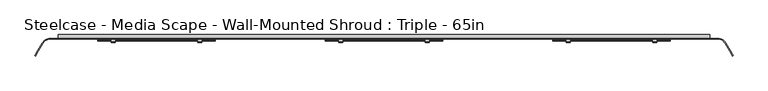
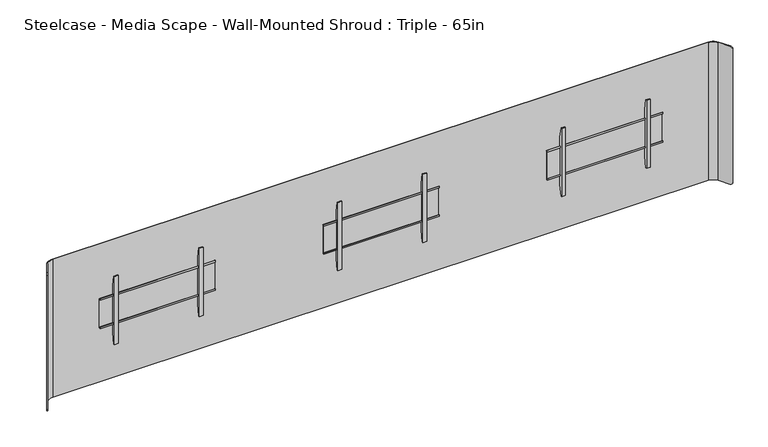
"""IFC4 building model written with IfcOpenShell, lengths in millimetres: furniture geometry, Steelcase - Media Scape - Wall-Mounted Shroud : Triple - 65in."""

from ifc_helpers import new_model, si_unit, frame, origin, place, context, project, spatial, polyline, circle_curve, outline, extrude, source, transform, mapped, element, save
from ifc_brep_helpers import plane_surface, cylinder_surface, revolved_surface, advanced_brep


def steelcase_media_scape_wall_mounted_shroud_triple_65in_d4411b09(model_context):
    return source(origin(), model_context, "Body", "SolidModel", [
        extrude(outline(polyline([(-42.4942785, 1453.5504726), (-42.4942785, 1465.5645649), (-39.8272175, 1465.5645649), (-39.8272175, 1456.217461), (-29.9720009, 1456.217461), (-29.9720009, 1241.8922438), (-42.3164551, 1241.8922438), (-42.3164551, 1252.8142515), (-39.649394, 1252.8142515), (-39.649394, 1244.557052), (-32.6531824, 1244.557052), (-32.6531824, 1453.5504726), (-42.4942785, 1453.5504726)])), frame((1171.575, 0.0, 0.0), z_axis=(1.0, 0.0, 0.0), x_axis=(0.0, 1.0, 0.0)), (0.0, 0.0, 1.0), 812.8),
        extrude(outline(polyline([(-32.6531824, 1524.4971148), (-32.6531824, 1172.6825607), (-46.5049349, 1095.0546949), (-53.3399828, 1095.0546949), (-53.3399828, 1603.0547192), (-46.5050076, 1603.0547192), (-32.6531824, 1524.4971148)])), frame((1265.176426, 0.0, 0.0), z_axis=(1.0, 0.0, 0.0), x_axis=(0.0, 1.0, 0.0)), (0.0, 0.0, 1.0), 26.1592872),
        extrude(outline(polyline([(-32.6531824, 1524.4971148), (-32.6531824, 1172.6825607), (-46.5049349, 1095.0546949), (-53.3399828, 1095.0546949), (-53.3399828, 1603.0547192), (-46.5050076, 1603.0547192), (-32.6531824, 1524.4971148)])), frame((1864.6142868, 0.0, 0.0), z_axis=(1.0, 0.0, 0.0), x_axis=(0.0, 1.0, 0.0)), (0.0, 0.0, 1.0), 26.1592872),
        extrude(outline(polyline([(-42.4942785, 1453.5504726), (-42.4942785, 1465.5645649), (-39.8272175, 1465.5645649), (-39.8272175, 1456.217461), (-29.9720009, 1456.217461), (-29.9720009, 1241.8922438), (-42.3164551, 1241.8922438), (-42.3164551, 1252.8142515), (-39.649394, 1252.8142515), (-39.649394, 1244.557052), (-32.6531824, 1244.557052), (-32.6531824, 1453.5504726), (-42.4942785, 1453.5504726)])), frame((-1984.375, 0.0, 0.0), z_axis=(1.0, 0.0, 0.0), x_axis=(0.0, 1.0, 0.0)), (0.0, 0.0, 1.0), 812.8),
        extrude(outline(polyline([(-32.6531824, 1524.4971148), (-32.6531824, 1172.6825607), (-46.5049349, 1095.0546949), (-53.3399828, 1095.0546949), (-53.3399828, 1603.0547192), (-46.5050076, 1603.0547192), (-32.6531824, 1524.4971148)])), frame((-1291.3357132, 0.0, 0.0), z_axis=(1.0, 0.0, 0.0), x_axis=(0.0, 1.0, 0.0)), (0.0, 0.0, 1.0), 26.1592872),
        extrude(outline(polyline([(-32.6531824, 1524.4971148), (-32.6531824, 1172.6825607), (-46.5049349, 1095.0546949), (-53.3399828, 1095.0546949), (-53.3399828, 1603.0547192), (-46.5050076, 1603.0547192), (-32.6531824, 1524.4971148)])), frame((-1890.773574, 0.0, 0.0), z_axis=(1.0, 0.0, 0.0), x_axis=(0.0, 1.0, 0.0)), (0.0, 0.0, 1.0), 26.1592872),
        extrude(outline(polyline([(-42.4942785, 1453.5504726), (-42.4942785, 1465.5645649), (-39.8272175, 1465.5645649), (-39.8272175, 1456.217461), (-29.9720009, 1456.217461), (-29.9720009, 1241.8922438), (-42.3164551, 1241.8922438), (-42.3164551, 1252.8142515), (-39.649394, 1252.8142515), (-39.649394, 1244.557052), (-32.6531824, 1244.557052), (-32.6531824, 1453.5504726), (-42.4942785, 1453.5504726)])), frame((-406.4, 0.0, 0.0), z_axis=(1.0, 0.0, 0.0), x_axis=(0.0, 1.0, 0.0)), (0.0, 0.0, 1.0), 812.8),
        extrude(outline(polyline([(-32.6531824, 1524.4971148), (-32.6531824, 1172.6825607), (-46.5049349, 1095.0546949), (-53.3399828, 1095.0546949), (-53.3399828, 1603.0547192), (-46.5050076, 1603.0547192), (-32.6531824, 1524.4971148)])), frame((286.6392868, 0.0, 0.0), z_axis=(1.0, 0.0, 0.0), x_axis=(0.0, 1.0, 0.0)), (0.0, 0.0, 1.0), 26.1592872),
        extrude(outline(polyline([(-32.6531824, 1524.4971148), (-32.6531824, 1172.6825607), (-46.5049349, 1095.0546949), (-53.3399828, 1095.0546949), (-53.3399828, 1603.0547192), (-46.5050076, 1603.0547192), (-32.6531824, 1524.4971148)])), frame((-312.798574, 0.0, 0.0), z_axis=(1.0, 0.0, 0.0), x_axis=(0.0, 1.0, 0.0)), (0.0, 0.0, 1.0), 26.1592872),
        advanced_brep(
        [(-2367.4086135, -61.722, 1864.614), (-2312.416002, -29.9720009, 1864.614), (2312.416, -29.9720009, 1864.614), (2367.4086135, -61.722, 1864.614), (2407.529586, -131.2135628, 1864.614), (2411.4890541, -128.9275628, 1864.614), (2371.3680817, -59.436, 1864.614), (2312.416002, -25.4, 1864.614), (-2312.416, -25.4, 1864.614), (-2371.3680817, -59.436, 1864.614), (-2411.4921659, -128.9329524, 1864.614), (-2407.5326977, -131.2189524, 1864.614), (-2371.3680817, -59.436, 835.914), (-2312.416002, -25.4, 835.914), (2312.416, -25.4, 835.914), (2371.3680817, -59.436, 835.914), (2411.5406629, -129.0169518, 835.914), (2407.5811948, -131.3029518, 835.914), (2367.4086135, -61.722, 835.914), (2312.416002, -29.9720009, 835.914), (-2312.416, -29.9720009, 835.914), (-2367.4086135, -61.722, 835.914), (-2407.5954014, -131.3275584, 835.914), (-2411.5548695, -129.0415584, 835.914), (-2421.0590632, -145.5033047, 849.5242766), (-2421.0590632, -145.5033047, 1850.6227735), (-2417.0995951, -147.7893047, 1850.6227735), (-2417.0995951, -147.7893047, 849.5242766), (2417.0770866, -147.7503189, 849.4756893), (2417.0770866, -147.7503189, 1850.7433849), (2421.0365547, -145.4643189, 1850.7433849), (2421.0365547, -145.4643189, 849.4756893)],
        [
            (0, 1, circle_curve(frame((-2312.416002, -93.4719991, 1864.614), z_axis=(0.0, 0.0, -1.0), x_axis=(0.0, 1.0, 0.0)), 63.4999981)),
            (1, 2),
            (2, 3, circle_curve(frame((2312.416002, -93.4719991, 1864.614), z_axis=(0.0, 0.0, -1.0), x_axis=(0.0, 1.0, 0.0)), 63.4999981)),
            (3, 4),
            (4, 5),
            (5, 6),
            (6, 7, circle_curve(frame((2312.4160004, -93.472, 1864.614), z_axis=(0.0, 0.0, 1.0), x_axis=(0.0, 1.0, 0.0)), 68.072)),
            (7, 8),
            (8, 9, circle_curve(frame((-2312.4160004, -93.472, 1864.614), z_axis=(0.0, 0.0, 1.0), x_axis=(0.0, 1.0, 0.0)), 68.072)),
            (9, 10),
            (10, 11),
            (11, 0),
            (12, 13, circle_curve(frame((-2312.4160004, -93.472, 835.914), z_axis=(0.0, 0.0, -1.0), x_axis=(0.0, 1.0, 0.0)), 68.072)),
            (13, 14),
            (14, 15, circle_curve(frame((2312.4160004, -93.472, 835.914), z_axis=(0.0, 0.0, -1.0), x_axis=(0.0, 1.0, 0.0)), 68.072)),
            (15, 16),
            (16, 17),
            (17, 18),
            (18, 19, circle_curve(frame((2312.416002, -93.4719991, 835.914), z_axis=(0.0, 0.0, 1.0), x_axis=(0.0, 1.0, 0.0)), 63.4999981)),
            (19, 20),
            (20, 21, circle_curve(frame((-2312.416002, -93.4719991, 835.914), z_axis=(0.0, 0.0, 1.0), x_axis=(0.0, 1.0, 0.0)), 63.4999981)),
            (21, 22),
            (22, 23),
            (23, 12),
            (0, 21),
            (20, 1),
            (8, 13),
            (12, 9),
            (23, 24, circle_curve(frame((-2411.5548695, -129.0415584, 855.9928872), z_axis=(-0.8660254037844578, 0.4999999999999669, 0.0), x_axis=(-0.4999999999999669, -0.8660254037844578, 0.0)), 20.0788872)),
            (24, 25),
            (25, 10, circle_curve(frame((-2411.4921659, -128.9329524, 1844.5351128), z_axis=(-0.866025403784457, 0.49999999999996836, 0.0), x_axis=(-0.49999999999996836, -0.866025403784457, 0.0)), 20.0788872)),
            (26, 25),
            (24, 27),
            (27, 26),
            (11, 26, circle_curve(frame((-2407.5326977, -131.2189524, 1844.5351128), z_axis=(0.866025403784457, -0.49999999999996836, 0.0), x_axis=(-0.49999999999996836, -0.866025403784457, 0.0)), 20.0788872)),
            (27, 22, circle_curve(frame((-2407.5954014, -131.3275584, 855.9928872), z_axis=(0.8660254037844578, -0.4999999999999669, 0.0), x_axis=(-0.4999999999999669, -0.8660254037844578, 0.0)), 20.0788872)),
            (7, 14),
            (19, 2),
            (3, 18),
            (17, 28, circle_curve(frame((2407.5811948, -131.3029518, 855.9928872), z_axis=(-0.8660254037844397, -0.4999999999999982, 0.0), x_axis=(0.4999999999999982, -0.8660254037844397, 0.0)), 20.0788872)),
            (28, 29),
            (29, 4, circle_curve(frame((2407.529586, -131.2135628, 1844.5351128), z_axis=(-0.8660254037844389, -0.49999999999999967, 0.0), x_axis=(0.49999999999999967, -0.8660254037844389, 0.0)), 20.0788872)),
            (30, 29),
            (28, 31),
            (31, 30),
            (15, 6),
            (5, 30, circle_curve(frame((2411.4890541, -128.9275628, 1844.5351128), z_axis=(0.8660254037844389, 0.49999999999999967, 0.0), x_axis=(0.49999999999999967, -0.8660254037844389, 0.0)), 20.0788872)),
            (31, 16, circle_curve(frame((2411.5406629, -129.0169518, 855.9928872), z_axis=(0.8660254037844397, 0.4999999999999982, 0.0), x_axis=(0.4999999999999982, -0.8660254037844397, 0.0)), 20.0788872)),
        ],
        [
            plane_surface(frame((-2312.416002, -29.9720009, 1864.614), z_axis=(0.0, 0.0, 1.0), x_axis=(1.0, 0.0, 0.0))),
            plane_surface(frame((-2312.416002, -29.9720009, 835.914), z_axis=(0.0, 0.0, -1.0), x_axis=(-1.0, 0.0, 0.0))),
            revolved_surface(polyline([(-2312.416002, -29.972001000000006, 835.914), (-2312.416002, -29.972001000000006, 1864.614)]), (-2312.416002, -93.4719991, 835.914), (0.0, 0.0, -1.0)),
            cylinder_surface(frame((-2312.4160004, -93.472, 835.914), z_axis=(0.0, 0.0, 1.0), x_axis=(0.0, 1.0, 0.0)), 68.072),
            plane_surface(frame((-2371.3680817, -59.436, 1864.614), z_axis=(-0.8660254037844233, 0.5000000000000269, 0.0), x_axis=(0.0, 0.0, -1.0))),
            plane_surface(frame((-2421.0590632, -145.5033047, 1864.614), z_axis=(-0.5000000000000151, -0.86602540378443, 0.0), x_axis=(0.0, 0.0, -1.0))),
            plane_surface(frame((-2417.0995951, -147.7893047, 1864.614), z_axis=(0.8660254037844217, -0.5000000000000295, 0.0), x_axis=(0.0, 0.0, -1.0))),
            plane_surface(frame((2312.416, -25.4, 1864.614), z_axis=(0.0, 1.0, 0.0), x_axis=(0.0, 0.0, -1.0))),
            plane_surface(frame((-2312.416, -29.9720009, 1864.614), z_axis=(0.0, -1.0, 0.0), x_axis=(0.0, 0.0, -1.0))),
            plane_surface(frame((2367.4086135, -61.722, 1864.614), z_axis=(-0.8660254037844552, -0.4999999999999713, 0.0), x_axis=(0.0, 0.0, -1.0))),
            plane_surface(frame((2417.0770866, -147.7503189, 1864.614), z_axis=(0.4999999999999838, -0.866025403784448, 0.0), x_axis=(0.0, 0.0, -1.0))),
            plane_surface(frame((2421.0365547, -145.4643189, 1864.614), z_axis=(0.8660254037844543, 0.4999999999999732, 0.0), x_axis=(0.0, 0.0, -1.0))),
            cylinder_surface(frame((2312.4160004, -93.472, 835.914), z_axis=(0.0, 0.0, 1.0), x_axis=(0.0, 1.0, 0.0)), 68.072),
            revolved_surface(polyline([(2312.416002, -29.972001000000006, 835.914), (2312.416002, -29.972001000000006, 1864.614)]), (2312.416002, -93.4719991, 835.914), (0.0, 0.0, -1.0)),
            cylinder_surface(frame((-2407.5326977, -131.2189524, 1844.5351128), z_axis=(0.866025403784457, -0.49999999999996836, 0.0), x_axis=(-0.49999999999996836, -0.866025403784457, 0.0)), 20.0788872),
            cylinder_surface(frame((-2407.5954014, -131.3275584, 855.9928872), z_axis=(0.8660254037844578, -0.4999999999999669, 0.0), x_axis=(-0.4999999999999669, -0.8660254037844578, 0.0)), 20.0788872),
            cylinder_surface(frame((2422.6364297, -122.4916225, 1844.5351128), z_axis=(0.8660254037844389, 0.49999999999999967, 0.0), x_axis=(0.49999999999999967, -0.8660254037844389, 0.0)), 20.0788872),
            cylinder_surface(frame((2419.8289695, -124.2316958, 855.9928872), z_axis=(0.8660254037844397, 0.4999999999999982, 0.0), x_axis=(0.4999999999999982, -0.8660254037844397, 0.0)), 20.0788872),
        ],
        [
            (0, [[1, 2, 3, 4, 5, 6, 7, 8, 9, 10, 11, 12]]),
            (1, [[13, 14, 15, 16, 17, 18, 19, 20, 21, 22, 23, 24]]),
            (2, [[-1, 25, -21, 26]]),
            (3, [[-9, 27, -13, 28]]),
            (4, [[-28, -24, 29, 30, 31, -10]]),
            (5, [[32, -30, 33, 34]]),
            (6, [[-25, -12, 35, -34, 36, -22]]),
            (7, [[-8, 37, -14, -27]]),
            (8, [[-2, -26, -20, 38]]),
            (9, [[39, -18, 40, 41, 42, -4]]),
            (10, [[43, -41, 44, 45]]),
            (11, [[46, -6, 47, -45, 48, -16]]),
            (12, [[-7, -46, -15, -37]]),
            (13, [[-3, -38, -19, -39]]),
            (14, [[-11, -31, -32, -35]]),
            (15, [[-23, -36, -33, -29]]),
            (16, [[-5, -42, -43, -47]]),
            (17, [[-17, -48, -44, -40]]),
        ],
    ),
        extrude(outline(polyline([(912.1648167, 2197.0999879), (912.1648167, 2260.6), (1788.414, 2260.6), (1788.414, -2260.6), (912.1648167, -2260.6), (912.1648167, -2198.0933465), (1724.9139516, -2198.0933465), (1724.9139516, 2197.0999879), (912.1648167, 2197.0999879)])), frame((0.0, -25.4, 0.0), z_axis=(0.0, 1.0, 0.0), x_axis=(0.0, 0.0, 1.0)), (0.0, 0.0, 1.0), 25.4),
    ])


if __name__ == "__main__":
    model = new_model("IFC4")
    model_context = context("Model", 3, world=origin())
    ifc_project = project(units=[si_unit("LENGTHUNIT", "METRE", prefix="MILLI")], contexts=[model_context])
    site = spatial("IfcSite", under=ifc_project)
    building = spatial("IfcBuilding", under=site)
    placement = place(None, origin())
    steelcase_media_scape_wall_mounted_shroud_triple_65in_shape = steelcase_media_scape_wall_mounted_shroud_triple_65in_d4411b09(model_context)
    element("IfcFurniture", 1, ObjectType="Steelcase - Media Scape - Wall-Mounted Shroud : Triple - 65in", at=placement, inside=building, context=model_context, shape_type="MappedRepresentation", body=[
        mapped(steelcase_media_scape_wall_mounted_shroud_triple_65in_shape, transform((0.0, 0.0, 0.0), x_axis=(1.0, 0.0, 0.0), y_axis=(0.0, 1.0, 0.0), z_axis=(0.0, 0.0, 1.0))),
    ])
    save(model, "model.ifc")
